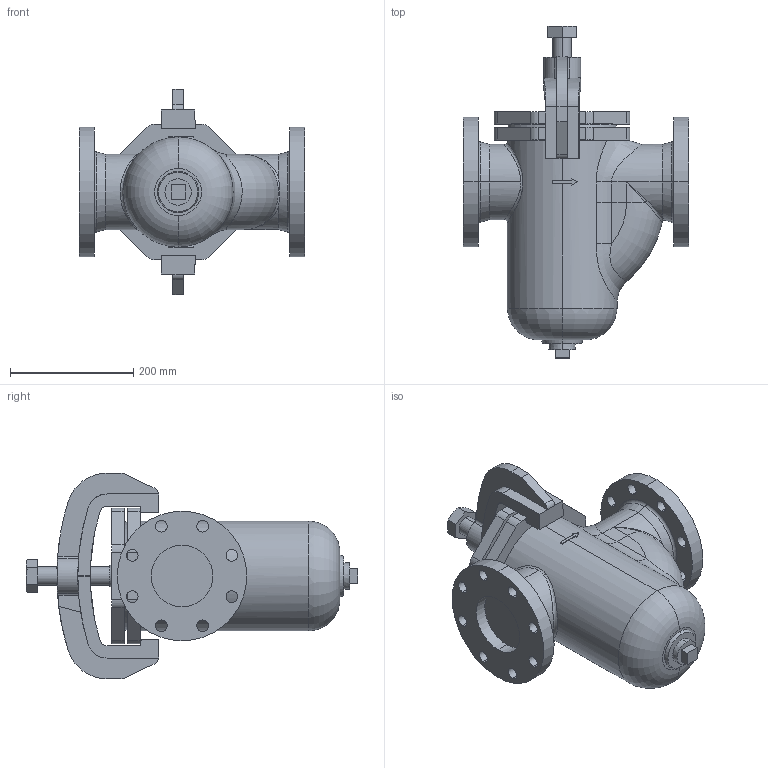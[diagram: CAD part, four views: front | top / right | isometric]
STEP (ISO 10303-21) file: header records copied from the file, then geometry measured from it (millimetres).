
FILE_DESCRIPTION (( 'STEP AP203' ), '1' );
FILE_NAME ('SU-20S 100A.STEP', '2025-12-15T02:28:15', ( '' ), ( '' ), 'SwSTEP 2.0', 'SolidWorks 2024', '' );
FILE_SCHEMA (( 'CONFIG_CONTROL_DESIGN' ));
Length unit declared in the file: millimetre
Products named in the file (4): SU-20S Bolt 100-150A; SU-20S Body-P 100A; SU-20S 100A; SU-20S Arm 100A
Assembly tree (3 placements, depth 2):
  SU-20S 100A
    SU-20S Body-P 100A
    SU-20S Arm 100A
    SU-20S Bolt 100-150A
Bounding box: 365 x 538.3 x 334 mm (x, y, z)
Volume: 14267745.9 mm3; surface area: 657488.2 mm2
Topology: 3 solids, 3 shells, 226 faces, 591 edges, 383 vertices
Faces by surface type: cylinder 101, plane 87, cone 19, torus 7, bspline 6, sphere 6
Entity records: 9870 total; most frequent: CARTESIAN_POINT 3819, DIRECTION 1196, ORIENTED_EDGE 1180, EDGE_CURVE 590, AXIS2_PLACEMENT_3D 455, VERTEX_POINT 383, VECTOR 286, LINE 286
